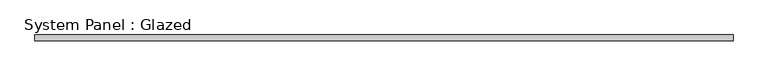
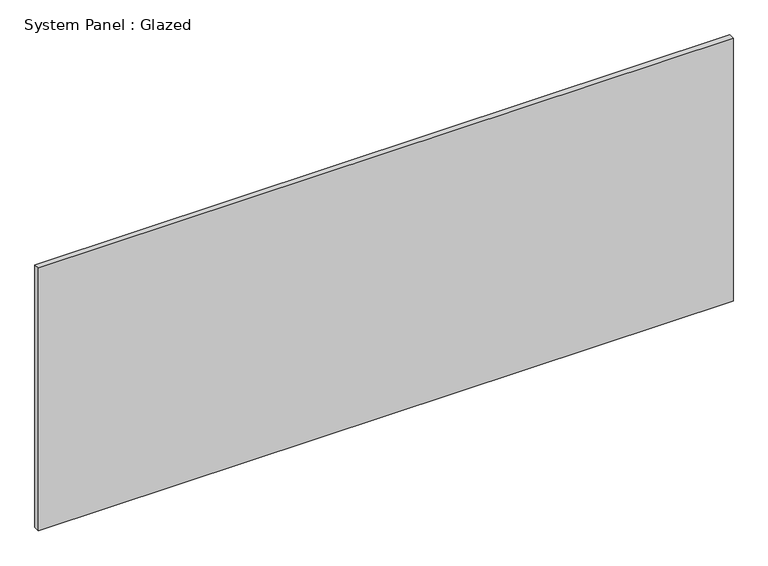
"""IFC4 building model written with IfcOpenShell, lengths in millimetres: plate geometry, System Panel : Glazed."""

from ifc_helpers import new_model, si_unit, origin, origin_with_axes, place, context, project, spatial, polyline, outline, extrude, source, transform, mapped, element, save


def system_panel_glazed_251ec537(model_context):
    return source(origin(), model_context, "Body", "SweptSolid", [
        extrude(outline(polyline([(1524.0, 19.05), (-1524.0, 19.05), (-1524.0, 44.45), (1524.0, 44.45), (1524.0, 19.05)])), origin_with_axes(), (0.0, 0.0, 1.0), 1219.2),
    ])


if __name__ == "__main__":
    model = new_model("IFC4")
    model_context = context("Model", 3, world=origin())
    ifc_project = project(units=[si_unit("LENGTHUNIT", "METRE", prefix="MILLI")], contexts=[model_context])
    site = spatial("IfcSite", under=ifc_project)
    building = spatial("IfcBuilding", under=site)
    placement = place(None, origin())
    system_panel_glazed_shape = system_panel_glazed_251ec537(model_context)
    element("IfcPlate", 1, ObjectType="System Panel : Glazed", at=placement, inside=building, context=model_context, shape_type="MappedRepresentation", body=[
        mapped(system_panel_glazed_shape, transform((0.0, 0.0, 0.0), x_axis=(1.0, 0.0, 0.0), y_axis=(0.0, 1.0, 0.0), z_axis=(0.0, 0.0, 1.0))),
    ])
    save(model, "model.ifc")
